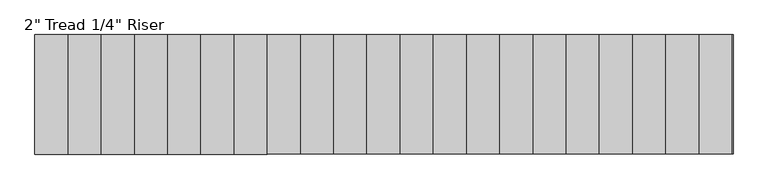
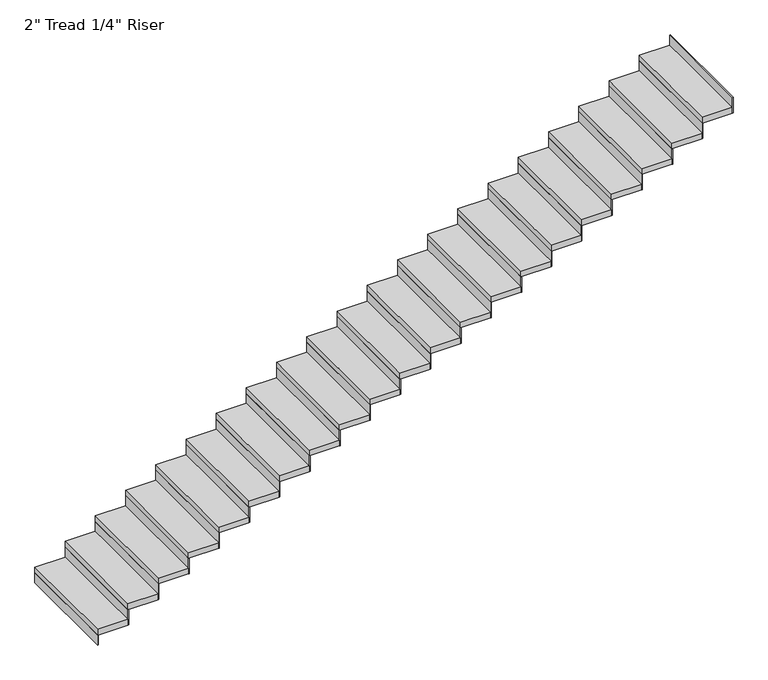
"""IFC4 building model written with IfcOpenShell, lengths in millimetres: stair flight geometry."""

from ifc_helpers import new_model, si_unit, frame, origin, origin_with_axes, place, context, project, spatial, polyline, outline, extrude, source, transform, mapped, element, save


def stair_flight_579046b4(model_context):
    return source(origin(), model_context, "Body", "SweptSolid", [
        extrude(outline(polyline([(35788.4072927, -18868.6990002), (35782.0572927, -18868.6990002), (35782.0572927, -17954.2990002), (35788.4072927, -17954.2990002), (35788.4072927, -18868.6990002)])), origin_with_axes(), (0.0, 0.0, 1.0), 87.7454545),
        extrude(outline(polyline([(36036.0572927, -17954.2990002), (36036.0572927, -18868.6990002), (35782.0572927, -18868.6990002), (35782.0572927, -17954.2990002), (36036.0572927, -17954.2990002)])), frame((0.0, 0.0, 87.7454545), z_axis=(0.0, 0.0, 1.0), x_axis=(1.0, 0.0, 0.0)), (0.0, 0.0, 1.0), 50.8),
        extrude(outline(polyline([(36042.4072927, -18868.6990002), (36036.0572927, -18868.6990002), (36036.0572927, -17954.2990002), (36042.4072927, -17954.2990002), (36042.4072927, -18868.6990002)])), frame((0.0, 0.0, 87.7454545), z_axis=(0.0, 0.0, 1.0), x_axis=(1.0, 0.0, 0.0)), (0.0, 0.0, 1.0), 138.5454545),
        extrude(outline(polyline([(36290.0572927, -17954.2990002), (36290.0572927, -18868.6990002), (36036.0572927, -18868.6990002), (36036.0572927, -17954.2990002), (36290.0572927, -17954.2990002)])), frame((0.0, 0.0, 226.2909091), z_axis=(0.0, 0.0, 1.0), x_axis=(1.0, 0.0, 0.0)), (0.0, 0.0, 1.0), 50.8),
        extrude(outline(polyline([(36296.4072927, -18868.6990002), (36290.0572927, -18868.6990002), (36290.0572927, -17954.2990002), (36296.4072927, -17954.2990002), (36296.4072927, -18868.6990002)])), frame((0.0, 0.0, 226.2909091), z_axis=(0.0, 0.0, 1.0), x_axis=(1.0, 0.0, 0.0)), (0.0, 0.0, 1.0), 138.5454545),
        extrude(outline(polyline([(36544.0572927, -17954.2990002), (36544.0572927, -18868.6990002), (36290.0572927, -18868.6990002), (36290.0572927, -17954.2990002), (36544.0572927, -17954.2990002)])), frame((0.0, 0.0, 364.8363636), z_axis=(0.0, 0.0, 1.0), x_axis=(1.0, 0.0, 0.0)), (0.0, 0.0, 1.0), 50.8),
        extrude(outline(polyline([(36550.4072927, -18868.6990002), (36544.0572927, -18868.6990002), (36544.0572927, -17954.2990002), (36550.4072927, -17954.2990002), (36550.4072927, -18868.6990002)])), frame((0.0, 0.0, 364.8363636), z_axis=(0.0, 0.0, 1.0), x_axis=(1.0, 0.0, 0.0)), (0.0, 0.0, 1.0), 138.5454545),
        extrude(outline(polyline([(36798.0572927, -17954.2990002), (36798.0572927, -18868.6990002), (36544.0572927, -18868.6990002), (36544.0572927, -17954.2990002), (36798.0572927, -17954.2990002)])), frame((0.0, 0.0, 503.3818182), z_axis=(0.0, 0.0, 1.0), x_axis=(1.0, 0.0, 0.0)), (0.0, 0.0, 1.0), 50.8),
        extrude(outline(polyline([(36804.4072927, -18868.6990002), (36798.0572927, -18868.6990002), (36798.0572927, -17954.2990002), (36804.4072927, -17954.2990002), (36804.4072927, -18868.6990002)])), frame((0.0, 0.0, 503.3818182), z_axis=(0.0, 0.0, 1.0), x_axis=(1.0, 0.0, 0.0)), (0.0, 0.0, 1.0), 138.5454545),
        extrude(outline(polyline([(37052.0572927, -17954.2990002), (37052.0572927, -18868.6990002), (36798.0572927, -18868.6990002), (36798.0572927, -17954.2990002), (37052.0572927, -17954.2990002)])), frame((0.0, 0.0, 641.9272727), z_axis=(0.0, 0.0, 1.0), x_axis=(1.0, 0.0, 0.0)), (0.0, 0.0, 1.0), 50.8),
        extrude(outline(polyline([(37058.4072927, -18868.6990002), (37052.0572927, -18868.6990002), (37052.0572927, -17954.2990002), (37058.4072927, -17954.2990002), (37058.4072927, -18868.6990002)])), frame((0.0, 0.0, 641.9272727), z_axis=(0.0, 0.0, 1.0), x_axis=(1.0, 0.0, 0.0)), (0.0, 0.0, 1.0), 138.5454545),
        extrude(outline(polyline([(37306.0572927, -17954.2990002), (37306.0572927, -18868.6990002), (37052.0572927, -18868.6990002), (37052.0572927, -17954.2990002), (37306.0572927, -17954.2990002)])), frame((0.0, 0.0, 780.4727273), z_axis=(0.0, 0.0, 1.0), x_axis=(1.0, 0.0, 0.0)), (0.0, 0.0, 1.0), 50.8),
        extrude(outline(polyline([(37312.4072927, -18868.6990002), (37306.0572927, -18868.6990002), (37306.0572927, -17954.2990002), (37312.4072927, -17954.2990002), (37312.4072927, -18868.6990002)])), frame((0.0, 0.0, 780.4727273), z_axis=(0.0, 0.0, 1.0), x_axis=(1.0, 0.0, 0.0)), (0.0, 0.0, 1.0), 138.5454545),
        extrude(outline(polyline([(37560.0572927, -17954.2990002), (37560.0572927, -18868.6990002), (37306.0572927, -18868.6990002), (37306.0572927, -17954.2990002), (37560.0572927, -17954.2990002)])), frame((0.0, 0.0, 919.0181818), z_axis=(0.0, 0.0, 1.0), x_axis=(1.0, 0.0, 0.0)), (0.0, 0.0, 1.0), 50.8),
        extrude(outline(polyline([(37566.4072927, -18868.6990002), (37560.0572927, -18868.6990002), (37560.0572927, -17954.2990002), (37566.4072927, -17954.2990002), (37566.4072927, -18868.6990002)])), frame((0.0, 0.0, 919.0181818), z_axis=(0.0, 0.0, 1.0), x_axis=(1.0, 0.0, 0.0)), (0.0, 0.0, 1.0), 138.5454545),
        extrude(outline(polyline([(37814.0572927, -17954.2990002), (37814.0572927, -18868.6990002), (37560.0572927, -18868.6990002), (37560.0572927, -17954.2990002), (37814.0572927, -17954.2990002)])), frame((0.0, 0.0, 1057.5636364), z_axis=(0.0, 0.0, 1.0), x_axis=(1.0, 0.0, 0.0)), (0.0, 0.0, 1.0), 50.8),
        extrude(outline(polyline([(37820.4072927, -18868.6990002), (37814.0572927, -18868.6990002), (37814.0572927, -17954.2990002), (37820.4072927, -17954.2990002), (37820.4072927, -18868.6990002)])), frame((0.0, 0.0, 1057.5636364), z_axis=(0.0, 0.0, 1.0), x_axis=(1.0, 0.0, 0.0)), (0.0, 0.0, 1.0), 138.5454545),
        extrude(outline(polyline([(38068.0572927, -17954.2990002), (38068.0572927, -18868.6990002), (37814.0572927, -18868.6990002), (37814.0572927, -17954.2990002), (38068.0572927, -17954.2990002)])), frame((0.0, 0.0, 1196.1090909), z_axis=(0.0, 0.0, 1.0), x_axis=(1.0, 0.0, 0.0)), (0.0, 0.0, 1.0), 50.8),
        extrude(outline(polyline([(38074.4072927, -18868.6990002), (38068.0572927, -18868.6990002), (38068.0572927, -17954.2990002), (38074.4072927, -17954.2990002), (38074.4072927, -18868.6990002)])), frame((0.0, 0.0, 1196.1090909), z_axis=(0.0, 0.0, 1.0), x_axis=(1.0, 0.0, 0.0)), (0.0, 0.0, 1.0), 138.5454545),
        extrude(outline(polyline([(38322.0572927, -17954.2990002), (38322.0572927, -18868.6990002), (38068.0572927, -18868.6990002), (38068.0572927, -17954.2990002), (38322.0572927, -17954.2990002)])), frame((0.0, 0.0, 1334.6545455), z_axis=(0.0, 0.0, 1.0), x_axis=(1.0, 0.0, 0.0)), (0.0, 0.0, 1.0), 50.8),
        extrude(outline(polyline([(38328.4072927, -18868.6990002), (38322.0572927, -18868.6990002), (38322.0572927, -17954.2990002), (38328.4072927, -17954.2990002), (38328.4072927, -18868.6990002)])), frame((0.0, 0.0, 1334.6545455), z_axis=(0.0, 0.0, 1.0), x_axis=(1.0, 0.0, 0.0)), (0.0, 0.0, 1.0), 138.5454545),
        extrude(outline(polyline([(38576.0572927, -17954.2990002), (38576.0572927, -18868.6990002), (38322.0572927, -18868.6990002), (38322.0572927, -17954.2990002), (38576.0572927, -17954.2990002)])), frame((0.0, 0.0, 1473.2), z_axis=(0.0, 0.0, 1.0), x_axis=(1.0, 0.0, 0.0)), (0.0, 0.0, 1.0), 50.8),
        extrude(outline(polyline([(38582.4072927, -18868.6990002), (38576.0572927, -18868.6990002), (38576.0572927, -17954.2990002), (38582.4072927, -17954.2990002), (38582.4072927, -18868.6990002)])), frame((0.0, 0.0, 1473.2), z_axis=(0.0, 0.0, 1.0), x_axis=(1.0, 0.0, 0.0)), (0.0, 0.0, 1.0), 138.5454545),
        extrude(outline(polyline([(38830.0572927, -17954.2990002), (38830.0572927, -18868.6990002), (38576.0572927, -18868.6990002), (38576.0572927, -17954.2990002), (38830.0572927, -17954.2990002)])), frame((0.0, 0.0, 1611.7454545), z_axis=(0.0, 0.0, 1.0), x_axis=(1.0, 0.0, 0.0)), (0.0, 0.0, 1.0), 50.8),
        extrude(outline(polyline([(38836.4072927, -18868.6990002), (38830.0572927, -18868.6990002), (38830.0572927, -17954.2990002), (38836.4072927, -17954.2990002), (38836.4072927, -18868.6990002)])), frame((0.0, 0.0, 1611.7454545), z_axis=(0.0, 0.0, 1.0), x_axis=(1.0, 0.0, 0.0)), (0.0, 0.0, 1.0), 138.5454545),
        extrude(outline(polyline([(39084.0572927, -17954.2990002), (39084.0572927, -18868.6990002), (38830.0572927, -18868.6990002), (38830.0572927, -17954.2990002), (39084.0572927, -17954.2990002)])), frame((0.0, 0.0, 1750.2909091), z_axis=(0.0, 0.0, 1.0), x_axis=(1.0, 0.0, 0.0)), (0.0, 0.0, 1.0), 50.8),
        extrude(outline(polyline([(39090.4072927, -18868.6990002), (39084.0572927, -18868.6990002), (39084.0572927, -17954.2990002), (39090.4072927, -17954.2990002), (39090.4072927, -18868.6990002)])), frame((0.0, 0.0, 1750.2909091), z_axis=(0.0, 0.0, 1.0), x_axis=(1.0, 0.0, 0.0)), (0.0, 0.0, 1.0), 138.5454545),
        extrude(outline(polyline([(39338.0572927, -17954.2990002), (39338.0572927, -18868.6990002), (39084.0572927, -18868.6990002), (39084.0572927, -17954.2990002), (39338.0572927, -17954.2990002)])), frame((0.0, 0.0, 1888.8363636), z_axis=(0.0, 0.0, 1.0), x_axis=(1.0, 0.0, 0.0)), (0.0, 0.0, 1.0), 50.8),
        extrude(outline(polyline([(39344.4072927, -18868.6990002), (39338.0572927, -18868.6990002), (39338.0572927, -17954.2990002), (39344.4072927, -17954.2990002), (39344.4072927, -18868.6990002)])), frame((0.0, 0.0, 1888.8363636), z_axis=(0.0, 0.0, 1.0), x_axis=(1.0, 0.0, 0.0)), (0.0, 0.0, 1.0), 138.5454545),
        extrude(outline(polyline([(39592.0572927, -17954.2990002), (39592.0572927, -18868.6990002), (39338.0572927, -18868.6990002), (39338.0572927, -17954.2990002), (39592.0572927, -17954.2990002)])), frame((0.0, 0.0, 2027.3818182), z_axis=(0.0, 0.0, 1.0), x_axis=(1.0, 0.0, 0.0)), (0.0, 0.0, 1.0), 50.8),
        extrude(outline(polyline([(39598.4072927, -18868.6990002), (39592.0572927, -18868.6990002), (39592.0572927, -17954.2990002), (39598.4072927, -17954.2990002), (39598.4072927, -18868.6990002)])), frame((0.0, 0.0, 2027.3818182), z_axis=(0.0, 0.0, 1.0), x_axis=(1.0, 0.0, 0.0)), (0.0, 0.0, 1.0), 138.5454545),
        extrude(outline(polyline([(39846.0572927, -17954.2990002), (39846.0572927, -18868.6990002), (39592.0572927, -18868.6990002), (39592.0572927, -17954.2990002), (39846.0572927, -17954.2990002)])), frame((0.0, 0.0, 2165.9272727), z_axis=(0.0, 0.0, 1.0), x_axis=(1.0, 0.0, 0.0)), (0.0, 0.0, 1.0), 50.8),
        extrude(outline(polyline([(39852.4072927, -18868.6990002), (39846.0572927, -18868.6990002), (39846.0572927, -17954.2990002), (39852.4072927, -17954.2990002), (39852.4072927, -18868.6990002)])), frame((0.0, 0.0, 2165.9272727), z_axis=(0.0, 0.0, 1.0), x_axis=(1.0, 0.0, 0.0)), (0.0, 0.0, 1.0), 138.5454545),
        extrude(outline(polyline([(40100.0572927, -17954.2990002), (40100.0572927, -18868.6990002), (39846.0572927, -18868.6990002), (39846.0572927, -17954.2990002), (40100.0572927, -17954.2990002)])), frame((0.0, 0.0, 2304.4727273), z_axis=(0.0, 0.0, 1.0), x_axis=(1.0, 0.0, 0.0)), (0.0, 0.0, 1.0), 50.8),
        extrude(outline(polyline([(40106.4072927, -18868.6990002), (40100.0572927, -18868.6990002), (40100.0572927, -17954.2990002), (40106.4072927, -17954.2990002), (40106.4072927, -18868.6990002)])), frame((0.0, 0.0, 2304.4727273), z_axis=(0.0, 0.0, 1.0), x_axis=(1.0, 0.0, 0.0)), (0.0, 0.0, 1.0), 138.5454545),
        extrude(outline(polyline([(40354.0572927, -17954.2990002), (40354.0572927, -18868.6990002), (40100.0572927, -18868.6990002), (40100.0572927, -17954.2990002), (40354.0572927, -17954.2990002)])), frame((0.0, 0.0, 2443.0181818), z_axis=(0.0, 0.0, 1.0), x_axis=(1.0, 0.0, 0.0)), (0.0, 0.0, 1.0), 50.8),
        extrude(outline(polyline([(40360.4072927, -18868.6990002), (40354.0572927, -18868.6990002), (40354.0572927, -17954.2990002), (40360.4072927, -17954.2990002), (40360.4072927, -18868.6990002)])), frame((0.0, 0.0, 2443.0181818), z_axis=(0.0, 0.0, 1.0), x_axis=(1.0, 0.0, 0.0)), (0.0, 0.0, 1.0), 138.5454545),
        extrude(outline(polyline([(40608.0572927, -17954.2990002), (40608.0572927, -18868.6990002), (40354.0572927, -18868.6990002), (40354.0572927, -17954.2990002), (40608.0572927, -17954.2990002)])), frame((0.0, 0.0, 2581.5636364), z_axis=(0.0, 0.0, 1.0), x_axis=(1.0, 0.0, 0.0)), (0.0, 0.0, 1.0), 50.8),
        extrude(outline(polyline([(40614.4072927, -18868.6990002), (40608.0572927, -18868.6990002), (40608.0572927, -17954.2990002), (40614.4072927, -17954.2990002), (40614.4072927, -18868.6990002)])), frame((0.0, 0.0, 2581.5636364), z_axis=(0.0, 0.0, 1.0), x_axis=(1.0, 0.0, 0.0)), (0.0, 0.0, 1.0), 138.5454545),
        extrude(outline(polyline([(40862.0572927, -17954.2990002), (40862.0572927, -18868.6990002), (40608.0572927, -18868.6990002), (40608.0572927, -17954.2990002), (40862.0572927, -17954.2990002)])), frame((0.0, 0.0, 2720.1090909), z_axis=(0.0, 0.0, 1.0), x_axis=(1.0, 0.0, 0.0)), (0.0, 0.0, 1.0), 50.8),
        extrude(outline(polyline([(40868.4072927, -18868.6990002), (40862.0572927, -18868.6990002), (40862.0572927, -17954.2990002), (40868.4072927, -17954.2990002), (40868.4072927, -18868.6990002)])), frame((0.0, 0.0, 2720.1090909), z_axis=(0.0, 0.0, 1.0), x_axis=(1.0, 0.0, 0.0)), (0.0, 0.0, 1.0), 138.5454545),
        extrude(outline(polyline([(41122.4072927, -18868.6990002), (41116.0572927, -18868.6990002), (41116.0572927, -17954.2990002), (41122.4072927, -17954.2990002), (41122.4072927, -18868.6990002)])), frame((0.0, 0.0, 2858.6545455), z_axis=(0.0, 0.0, 1.0), x_axis=(1.0, 0.0, 0.0)), (0.0, 0.0, 1.0), 138.5454545),
        extrude(outline(polyline([(41116.0572927, -17954.2990002), (41116.0572927, -18868.6990002), (40862.0572927, -18868.6990002), (40862.0572927, -17954.2990002), (41116.0572927, -17954.2990002)])), frame((0.0, 0.0, 2858.6545455), z_axis=(0.0, 0.0, 1.0), x_axis=(1.0, 0.0, 0.0)), (0.0, 0.0, 1.0), 50.8),
    ])


if __name__ == "__main__":
    model = new_model("IFC4")
    model_context = context("Model", 3, world=origin())
    ifc_project = project(units=[si_unit("LENGTHUNIT", "METRE", prefix="MILLI")], contexts=[model_context])
    site = spatial("IfcSite", under=ifc_project)
    building = spatial("IfcBuilding", under=site)
    placement = place(None, origin())
    stair_flight_shape = stair_flight_579046b4(model_context)
    element("IfcStairFlight", 1, ObjectType="2\" Tread 1/4\" Riser", at=placement, inside=building, context=model_context, shape_type="MappedRepresentation", body=[
        mapped(stair_flight_shape, transform((0.0, 0.0, 0.0), x_axis=(1.0, 0.0, 0.0), y_axis=(0.0, 1.0, 0.0), z_axis=(0.0, 0.0, 1.0))),
    ])
    save(model, "model.ifc")
